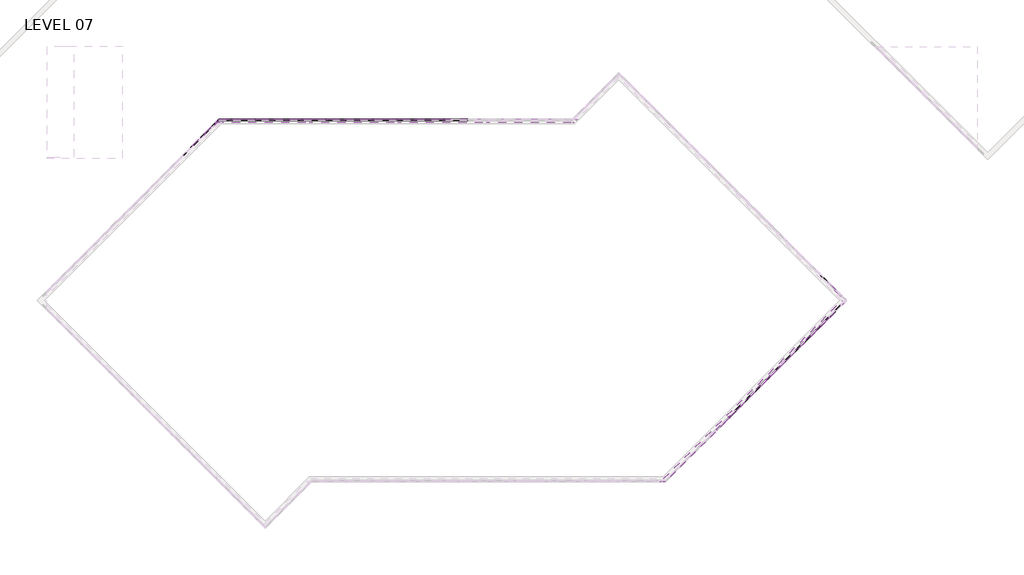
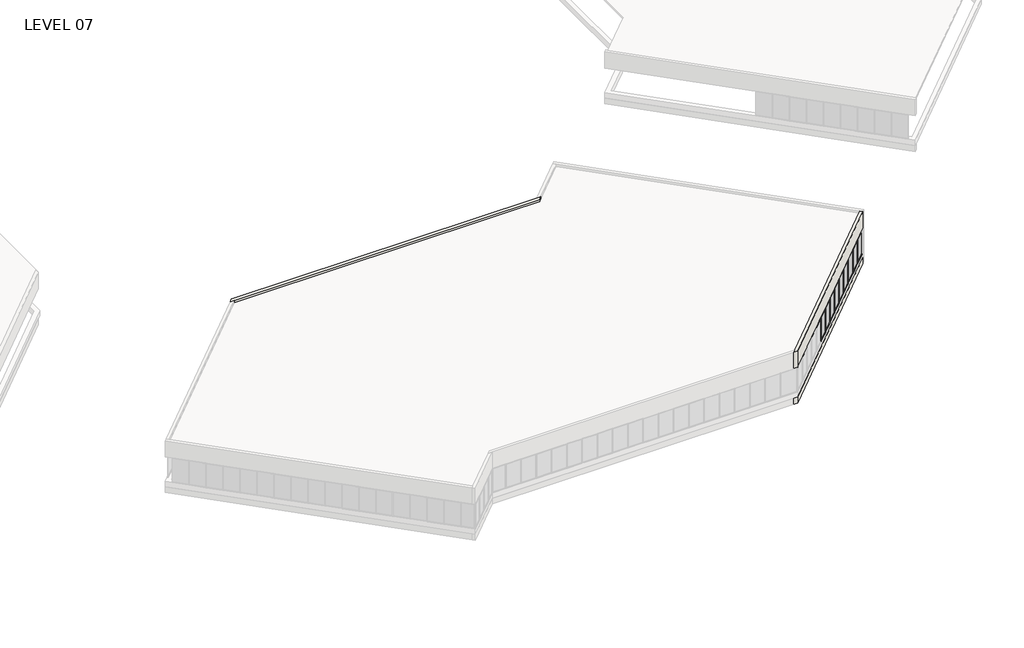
# One storey, part 8 of 18: 79 members, 26 plates, 4 walls.
"""IFC4 building model written with IfcOpenShell, lengths in millimetres."""

from ifc_helpers import new_model, si_unit, origin, place, context, project, spatial, faceted_brep, transform, mapped, element, save
from components import member_5247f267, member_e44af9ab, member_800970d4, member_1bd862b2, member_7ca0f77f, plate_67294edd, plate_bbcbcabf, plate_db5d6751

model = new_model("IFC4")

# Units and contexts
model_context = context("Model", 3, world=origin())
ifc_project = project(units=[si_unit("LENGTHUNIT", "METRE", prefix="MILLI")], contexts=[model_context])

# Site, building, storey
site = spatial("IfcSite", under=ifc_project)
building = spatial("IfcBuilding", under=site)
storey = spatial("IfcBuildingStorey", under=building, Name="LEVEL 07", Elevation=23368.0)

# Members
placement = place(None, origin())
member_shape = member_5247f267(model_context)
element("IfcMember", 1, ObjectType="Rectangular Mullion : 2\" x 4.5\" rectangular", at=placement, inside=storey, context=model_context, shape_type="MappedRepresentation", body=[
    mapped(member_shape, transform((55642.3943146, 1508.7210511, 23368.0), x_axis=(0.0, 0.0, -1.0), y_axis=(0.7071067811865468, -0.7071067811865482, 0.0), z_axis=(-0.7071067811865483, -0.7071067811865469, 0.0))),
])
element("IfcMember", 2, ObjectType="Rectangular Mullion : 2\" x 4.5\" rectangular", at=placement, inside=storey, context=model_context, shape_type="MappedRepresentation", body=[
    mapped(member_shape, transform((56720.0250491, 2586.3517856, 23368.0), x_axis=(0.0, 0.0, -1.0), y_axis=(0.7071067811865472, -0.7071067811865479, 0.0), z_axis=(-0.7071067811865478, -0.7071067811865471, 0.0))),
])
element("IfcMember", 3, ObjectType="Rectangular Mullion : 2\" x 4.5\" rectangular", at=placement, inside=storey, context=model_context, shape_type="MappedRepresentation", body=[
    mapped(member_shape, transform((57797.6557836, 3663.9825201, 23368.0), x_axis=(0.0, 0.0, -1.0), y_axis=(0.7071067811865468, -0.7071067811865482, 0.0), z_axis=(-0.7071067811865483, -0.7071067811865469, 0.0))),
])
element("IfcMember", 4, ObjectType="Rectangular Mullion : 2\" x 4.5\" rectangular", at=placement, inside=storey, context=model_context, shape_type="MappedRepresentation", body=[
    mapped(member_shape, transform((63185.8094563, 9052.1361928, 23368.0), x_axis=(0.0, 0.0, -1.0), y_axis=(0.7071067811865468, -0.7071067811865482, 0.0), z_axis=(-0.7071067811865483, -0.7071067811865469, 0.0))),
])
element("IfcMember", 5, ObjectType="Rectangular Mullion : 2\" x 4.5\" rectangular", at=placement, inside=storey, context=model_context, shape_type="MappedRepresentation", body=[
    mapped(member_shape, transform((54564.7635801, 431.0903165, 23368.0), x_axis=(0.0, 0.0, -1.0), y_axis=(0.7071067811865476, -0.7071067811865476, 0.0), z_axis=(-0.7071067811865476, -0.7071067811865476, 0.0))),
])
element("IfcMember", 6, ObjectType="Rectangular Mullion : 2\" x 4.5\" rectangular", at=placement, inside=storey, context=model_context, shape_type="MappedRepresentation", body=[
    mapped(member_shape, transform((59952.9172527, 5819.2439892, 23368.0), x_axis=(0.0, 0.0, -1.0), y_axis=(0.7071067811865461, -0.7071067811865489, 0.0), z_axis=(-0.7071067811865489, -0.7071067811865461, 0.0))),
])
element("IfcMember", 7, ObjectType="Rectangular Mullion : 2\" x 4.5\" rectangular", at=placement, inside=storey, context=model_context, shape_type="MappedRepresentation", body=[
    mapped(member_shape, transform((58875.2865182, 4741.6132547, 23368.0), x_axis=(0.0, 0.0, -1.0), y_axis=(0.7071067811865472, -0.7071067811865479, 0.0), z_axis=(-0.7071067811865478, -0.7071067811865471, 0.0))),
])
element("IfcMember", 8, ObjectType="Rectangular Mullion : 2\" x 4.5\" rectangular", at=placement, inside=storey, context=model_context, shape_type="MappedRepresentation", body=[
    mapped(member_shape, transform((61030.5479872, 6896.8747237, 23368.0), x_axis=(0.0, 0.0, -1.0), y_axis=(0.7071067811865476, -0.7071067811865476, 0.0), z_axis=(-0.7071067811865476, -0.7071067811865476, 0.0))),
])
element("IfcMember", 9, ObjectType="Rectangular Mullion : 2\" x 4.5\" rectangular", at=placement, inside=storey, context=model_context, shape_type="MappedRepresentation", body=[
    mapped(member_shape, transform((62108.1787218, 7974.5054582, 23368.0), x_axis=(0.0, 0.0, -1.0), y_axis=(0.7071067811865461, -0.7071067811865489, 0.0), z_axis=(-0.7071067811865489, -0.7071067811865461, 0.0))),
])
element("IfcMember", 10, ObjectType="Rectangular Mullion : 2\" x 4.5\" rectangular", at=placement, inside=storey, context=model_context, shape_type="MappedRepresentation", body=[
    mapped(member_shape, transform((63149.7097592, 11972.0792486, 23368.0), x_axis=(0.0, 0.0, -1.0), y_axis=(0.707106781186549, 0.7071067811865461, 0.0), z_axis=(0.707106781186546, -0.7071067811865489, 0.0))),
])
element("IfcMember", 11, ObjectType="Rectangular Mullion : 2\" x 4.5\" rectangular", at=placement, inside=storey, context=model_context, shape_type="MappedRepresentation", body=[
    mapped(member_shape, transform((21469.35, 26080.1328721, 23368.0), x_axis=(0.0, 0.0, -1.0), y_axis=(0.0, -1.0, 0.0), z_axis=(-1.0, 0.0, 0.0))),
])
element("IfcMember", 12, ObjectType="Rectangular Mullion : 2\" x 4.5\" rectangular", at=placement, inside=storey, context=model_context, shape_type="MappedRepresentation", body=[
    mapped(member_shape, transform((22993.35, 26080.1328721, 23368.0), x_axis=(0.0, 0.0, -1.0), y_axis=(0.0, -1.0, 0.0), z_axis=(-1.0, 0.0, 0.0))),
])
element("IfcMember", 13, ObjectType="Rectangular Mullion : 2\" x 4.5\" rectangular", at=placement, inside=storey, context=model_context, shape_type="MappedRepresentation", body=[
    mapped(member_shape, transform((24517.35, 26080.1328721, 23368.0), x_axis=(0.0, 0.0, -1.0), y_axis=(0.0, -1.0, 0.0), z_axis=(-1.0, 0.0, 0.0))),
])
element("IfcMember", 14, ObjectType="Rectangular Mullion : 2\" x 4.5\" rectangular", at=placement, inside=storey, context=model_context, shape_type="MappedRepresentation", body=[
    mapped(member_shape, transform((27565.35, 26080.1328721, 23368.0), x_axis=(0.0, 0.0, -1.0), y_axis=(0.0, -1.0, 0.0), z_axis=(-1.0, 0.0, 0.0))),
])
element("IfcMember", 15, ObjectType="Rectangular Mullion : 2\" x 4.5\" rectangular", at=placement, inside=storey, context=model_context, shape_type="MappedRepresentation", body=[
    mapped(member_shape, transform((29089.35, 26080.1328721, 23368.0), x_axis=(0.0, 0.0, -1.0), y_axis=(0.0, -1.0, 0.0), z_axis=(-1.0, 0.0, 0.0))),
])
element("IfcMember", 16, ObjectType="Rectangular Mullion : 2\" x 4.5\" rectangular", at=placement, inside=storey, context=model_context, shape_type="MappedRepresentation", body=[
    mapped(member_shape, transform((30613.35, 26080.1328721, 23368.0), x_axis=(0.0, 0.0, -1.0), y_axis=(0.0, -1.0, 0.0), z_axis=(-1.0, 0.0, 0.0))),
])
element("IfcMember", 17, ObjectType="Rectangular Mullion : 2\" x 4.5\" rectangular", at=placement, inside=storey, context=model_context, shape_type="MappedRepresentation", body=[
    mapped(member_shape, transform((26041.35, 26080.1328721, 23368.0), x_axis=(0.0, 0.0, -1.0), y_axis=(0.0, -1.0, 0.0), z_axis=(-1.0, 0.0, 0.0))),
])
element("IfcMember", 18, ObjectType="Rectangular Mullion : 2\" x 4.5\" rectangular", at=placement, inside=storey, context=model_context, shape_type="MappedRepresentation", body=[
    mapped(member_shape, transform((19945.35, 26080.1328721, 23368.0), x_axis=(0.0, 0.0, -1.0), y_axis=(0.0, -1.0, 0.0), z_axis=(-1.0, 0.0, 0.0))),
])
element("IfcMember", 19, ObjectType="Rectangular Mullion : 2\" x 4.5\" rectangular", at=placement, inside=storey, context=model_context, shape_type="MappedRepresentation", body=[
    mapped(member_shape, transform((18421.35, 26080.1328721, 23368.0), x_axis=(0.0, 0.0, -1.0), y_axis=(0.0, -1.0, 0.0), z_axis=(-1.0, 0.0, 0.0))),
])
element("IfcMember", 20, ObjectType="Rectangular Mullion : 2\" x 4.5\" rectangular", at=placement, inside=storey, context=model_context, shape_type="MappedRepresentation", body=[
    mapped(member_shape, transform((16897.35, 26080.1328721, 23368.0), x_axis=(0.0, 0.0, -1.0), y_axis=(0.0, -1.0, 0.0), z_axis=(-1.0, 0.0, 0.0))),
])
element("IfcMember", 21, ObjectType="Rectangular Mullion : 2\" x 4.5\" rectangular", at=placement, inside=storey, context=model_context, shape_type="MappedRepresentation", body=[
    mapped(member_shape, transform((15373.35, 26080.1328721, 23368.0), x_axis=(0.0, 0.0, -1.0), y_axis=(0.0, -1.0, 0.0), z_axis=(-1.0, 0.0, 0.0))),
])
element("IfcMember", 22, ObjectType="Rectangular Mullion : 2\" x 4.5\" rectangular", at=placement, inside=storey, context=model_context, shape_type="MappedRepresentation", body=[
    mapped(member_shape, transform((13849.35, 26080.1328721, 23368.0), x_axis=(0.0, 0.0, -1.0), y_axis=(0.0, -1.0, 0.0), z_axis=(-1.0, 0.0, 0.0))),
])
element("IfcMember", 23, ObjectType="Rectangular Mullion : 2\" x 4.5\" rectangular", at=placement, inside=storey, context=model_context, shape_type="MappedRepresentation", body=[
    mapped(member_shape, transform((12325.35, 26080.1328721, 23368.0), x_axis=(0.0, 0.0, -1.0), y_axis=(0.0, -1.0, 0.0), z_axis=(-1.0, 0.0, 0.0))),
])
element("IfcMember", 24, ObjectType="Rectangular Mullion : 2\" x 4.5\" rectangular", at=placement, inside=storey, context=model_context, shape_type="MappedRepresentation", body=[
    mapped(member_shape, transform((8320.1332875, 23790.0222953, 23368.0), x_axis=(0.0, 0.0, -1.0), y_axis=(-0.7071067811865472, 0.7071067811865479, 0.0), z_axis=(0.7071067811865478, 0.7071067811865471, 0.0))),
])
element("IfcMember", 25, ObjectType="Rectangular Mullion : 2\" x 4.5\" rectangular", at=placement, inside=storey, context=model_context, shape_type="MappedRepresentation", body=[
    mapped(member_shape, transform((9397.7640221, 24867.6530298, 23368.0), x_axis=(0.0, 0.0, -1.0), y_axis=(-0.7071067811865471, 0.7071067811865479, 0.0), z_axis=(0.7071067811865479, 0.7071067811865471, 0.0))),
])
element("IfcMember", 26, ObjectType="Rectangular Mullion : 2\" x 4.5\" rectangular", at=placement, inside=storey, context=model_context, shape_type="MappedRepresentation", body=[
    mapped(member_shape, transform((55606.4732901, 1472.8000266, 25958.8), x_axis=(0.0, 0.0, 1.0), y_axis=(0.7071067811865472, -0.7071067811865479, 0.0), z_axis=(0.7071067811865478, 0.7071067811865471, 0.0))),
])
element("IfcMember", 27, ObjectType="Rectangular Mullion : 2\" x 4.5\" rectangular", at=placement, inside=storey, context=model_context, shape_type="MappedRepresentation", body=[
    mapped(member_shape, transform((56684.1040246, 2550.4307611, 25958.8), x_axis=(0.0, 0.0, 1.0), y_axis=(0.7071067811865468, -0.7071067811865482, 0.0), z_axis=(0.7071067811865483, 0.7071067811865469, 0.0))),
])
element("IfcMember", 28, ObjectType="Rectangular Mullion : 2\" x 4.5\" rectangular", at=placement, inside=storey, context=model_context, shape_type="MappedRepresentation", body=[
    mapped(member_shape, transform((57761.7347592, 3628.0614956, 25958.8), x_axis=(0.0, 0.0, 1.0), y_axis=(0.7071067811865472, -0.7071067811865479, 0.0), z_axis=(0.7071067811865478, 0.7071067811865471, 0.0))),
])
element("IfcMember", 29, ObjectType="Rectangular Mullion : 2\" x 4.5\" rectangular", at=placement, inside=storey, context=model_context, shape_type="MappedRepresentation", body=[
    mapped(member_shape, transform((63149.8884318, 9016.2151683, 25958.8), x_axis=(0.0, 0.0, 1.0), y_axis=(0.7071067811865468, -0.7071067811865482, 0.0), z_axis=(0.7071067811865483, 0.7071067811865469, 0.0))),
])
element("IfcMember", 30, ObjectType="Rectangular Mullion : 2\" x 4.5\" rectangular", at=placement, inside=storey, context=model_context, shape_type="MappedRepresentation", body=[
    mapped(member_shape, transform((54528.8425556, 395.1692921, 25958.8), x_axis=(0.0, 0.0, 1.0), y_axis=(0.7071067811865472, -0.7071067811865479, 0.0), z_axis=(0.7071067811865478, 0.7071067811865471, 0.0))),
])
element("IfcMember", 31, ObjectType="Rectangular Mullion : 2\" x 4.5\" rectangular", at=placement, inside=storey, context=model_context, shape_type="MappedRepresentation", body=[
    mapped(member_shape, transform((59916.9962282, 5783.3229647, 25958.8), x_axis=(0.0, 0.0, 1.0), y_axis=(0.7071067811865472, -0.7071067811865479, 0.0), z_axis=(0.7071067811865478, 0.7071067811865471, 0.0))),
])
element("IfcMember", 32, ObjectType="Rectangular Mullion : 2\" x 4.5\" rectangular", at=placement, inside=storey, context=model_context, shape_type="MappedRepresentation", body=[
    mapped(member_shape, transform((58839.3654937, 4705.6922302, 25958.8), x_axis=(0.0, 0.0, 1.0), y_axis=(0.7071067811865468, -0.7071067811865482, 0.0), z_axis=(0.7071067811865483, 0.7071067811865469, 0.0))),
])
element("IfcMember", 33, ObjectType="Rectangular Mullion : 2\" x 4.5\" rectangular", at=placement, inside=storey, context=model_context, shape_type="MappedRepresentation", body=[
    mapped(member_shape, transform((60994.6269627, 6860.9536992, 25958.8), x_axis=(0.0, 0.0, 1.0), y_axis=(0.7071067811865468, -0.7071067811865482, 0.0), z_axis=(0.7071067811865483, 0.7071067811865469, 0.0))),
])
element("IfcMember", 34, ObjectType="Rectangular Mullion : 2\" x 4.5\" rectangular", at=placement, inside=storey, context=model_context, shape_type="MappedRepresentation", body=[
    mapped(member_shape, transform((62072.2576973, 7938.5844338, 25958.8), x_axis=(0.0, 0.0, 1.0), y_axis=(0.7071067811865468, -0.7071067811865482, 0.0), z_axis=(0.7071067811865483, 0.7071067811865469, 0.0))),
])
element("IfcMember", 35, ObjectType="Rectangular Mullion : 2\" x 4.5\" rectangular", at=placement, inside=storey, context=model_context, shape_type="MappedRepresentation", body=[
    mapped(member_shape, transform((63185.6307836, 11936.1582241, 25958.8), x_axis=(0.0, 0.0, 1.0), y_axis=(0.707106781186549, 0.7071067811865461, 0.0), z_axis=(-0.707106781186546, 0.7071067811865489, 0.0))),
])
element("IfcMember", 36, ObjectType="Rectangular Mullion : 2\" x 4.5\" rectangular", at=placement, inside=storey, context=model_context, shape_type="MappedRepresentation", body=[
    mapped(member_shape, transform((21418.55, 26080.1328721, 25958.8), x_axis=(0.0, 0.0, 1.0), y_axis=(0.0, -1.0, 0.0), z_axis=(1.0, 0.0, 0.0))),
])
element("IfcMember", 37, ObjectType="Rectangular Mullion : 2\" x 4.5\" rectangular", at=placement, inside=storey, context=model_context, shape_type="MappedRepresentation", body=[
    mapped(member_shape, transform((22942.55, 26080.1328721, 25958.8), x_axis=(0.0, 0.0, 1.0), y_axis=(0.0, -1.0, 0.0), z_axis=(1.0, 0.0, 0.0))),
])
element("IfcMember", 38, ObjectType="Rectangular Mullion : 2\" x 4.5\" rectangular", at=placement, inside=storey, context=model_context, shape_type="MappedRepresentation", body=[
    mapped(member_shape, transform((24466.55, 26080.1328721, 25958.8), x_axis=(0.0, 0.0, 1.0), y_axis=(0.0, -1.0, 0.0), z_axis=(1.0, 0.0, 0.0))),
])
element("IfcMember", 39, ObjectType="Rectangular Mullion : 2\" x 4.5\" rectangular", at=placement, inside=storey, context=model_context, shape_type="MappedRepresentation", body=[
    mapped(member_shape, transform((27514.55, 26080.1328721, 25958.8), x_axis=(0.0, 0.0, 1.0), y_axis=(0.0, -1.0, 0.0), z_axis=(1.0, 0.0, 0.0))),
])
element("IfcMember", 40, ObjectType="Rectangular Mullion : 2\" x 4.5\" rectangular", at=placement, inside=storey, context=model_context, shape_type="MappedRepresentation", body=[
    mapped(member_shape, transform((29038.55, 26080.1328721, 25958.8), x_axis=(0.0, 0.0, 1.0), y_axis=(0.0, -1.0, 0.0), z_axis=(1.0, 0.0, 0.0))),
])
element("IfcMember", 41, ObjectType="Rectangular Mullion : 2\" x 4.5\" rectangular", at=placement, inside=storey, context=model_context, shape_type="MappedRepresentation", body=[
    mapped(member_shape, transform((30562.55, 26080.1328721, 25958.8), x_axis=(0.0, 0.0, 1.0), y_axis=(0.0, -1.0, 0.0), z_axis=(1.0, 0.0, 0.0))),
])
element("IfcMember", 42, ObjectType="Rectangular Mullion : 2\" x 4.5\" rectangular", at=placement, inside=storey, context=model_context, shape_type="MappedRepresentation", body=[
    mapped(member_shape, transform((25990.55, 26080.1328721, 25958.8), x_axis=(0.0, 0.0, 1.0), y_axis=(0.0, -1.0, 0.0), z_axis=(1.0, 0.0, 0.0))),
])
element("IfcMember", 43, ObjectType="Rectangular Mullion : 2\" x 4.5\" rectangular", at=placement, inside=storey, context=model_context, shape_type="MappedRepresentation", body=[
    mapped(member_shape, transform((19894.55, 26080.1328721, 25958.8), x_axis=(0.0, 0.0, 1.0), y_axis=(0.0, -1.0, 0.0), z_axis=(1.0, 0.0, 0.0))),
])
element("IfcMember", 44, ObjectType="Rectangular Mullion : 2\" x 4.5\" rectangular", at=placement, inside=storey, context=model_context, shape_type="MappedRepresentation", body=[
    mapped(member_shape, transform((18370.55, 26080.1328721, 25958.8), x_axis=(0.0, 0.0, 1.0), y_axis=(0.0, -1.0, 0.0), z_axis=(1.0, 0.0, 0.0))),
])
element("IfcMember", 45, ObjectType="Rectangular Mullion : 2\" x 4.5\" rectangular", at=placement, inside=storey, context=model_context, shape_type="MappedRepresentation", body=[
    mapped(member_shape, transform((16846.55, 26080.1328721, 25958.8), x_axis=(0.0, 0.0, 1.0), y_axis=(0.0, -1.0, 0.0), z_axis=(1.0, 0.0, 0.0))),
])
element("IfcMember", 46, ObjectType="Rectangular Mullion : 2\" x 4.5\" rectangular", at=placement, inside=storey, context=model_context, shape_type="MappedRepresentation", body=[
    mapped(member_shape, transform((15322.55, 26080.1328721, 25958.8), x_axis=(0.0, 0.0, 1.0), y_axis=(0.0, -1.0, 0.0), z_axis=(1.0, 0.0, 0.0))),
])
element("IfcMember", 47, ObjectType="Rectangular Mullion : 2\" x 4.5\" rectangular", at=placement, inside=storey, context=model_context, shape_type="MappedRepresentation", body=[
    mapped(member_shape, transform((13798.55, 26080.1328721, 25958.8), x_axis=(0.0, 0.0, 1.0), y_axis=(0.0, -1.0, 0.0), z_axis=(1.0, 0.0, 0.0))),
])
element("IfcMember", 48, ObjectType="Rectangular Mullion : 2\" x 4.5\" rectangular", at=placement, inside=storey, context=model_context, shape_type="MappedRepresentation", body=[
    mapped(member_shape, transform((8356.054312, 23825.9433198, 25958.8), x_axis=(0.0, 0.0, 1.0), y_axis=(-0.7071067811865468, 0.7071067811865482, 0.0), z_axis=(-0.7071067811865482, -0.7071067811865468, 0.0))),
])
member_2_shape = member_e44af9ab(model_context)
element("IfcMember", 49, ObjectType="Rectangular Mullion : 2\" x 4.5\" rectangular", at=placement, inside=storey, context=model_context, shape_type="MappedRepresentation", body=[
    mapped(member_2_shape, transform((55624.4338023, 1490.7605388, 23368.0), x_axis=(0.7071067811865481, 0.7071067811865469, 0.0), y_axis=(0.7071067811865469, -0.7071067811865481, 0.0), z_axis=(0.0, 0.0, -1.0))),
])
element("IfcMember", 50, ObjectType="Rectangular Mullion : 2\" x 4.5\" rectangular", at=placement, inside=storey, context=model_context, shape_type="MappedRepresentation", body=[
    mapped(member_2_shape, transform((56702.0645369, 2568.3912734, 23368.0), x_axis=(0.7071067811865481, 0.7071067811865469, 0.0), y_axis=(0.7071067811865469, -0.7071067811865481, 0.0), z_axis=(0.0, 0.0, -1.0))),
])
element("IfcMember", 51, ObjectType="Rectangular Mullion : 2\" x 4.5\" rectangular", at=placement, inside=storey, context=model_context, shape_type="MappedRepresentation", body=[
    mapped(member_2_shape, transform((57779.6952714, 3646.0220079, 23368.0), x_axis=(0.7071067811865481, 0.7071067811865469, 0.0), y_axis=(0.7071067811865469, -0.7071067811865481, 0.0), z_axis=(0.0, 0.0, -1.0))),
])
element("IfcMember", 52, ObjectType="Rectangular Mullion : 2\" x 4.5\" rectangular", at=placement, inside=storey, context=model_context, shape_type="MappedRepresentation", body=[
    mapped(member_2_shape, transform((63167.848944, 9034.1756805, 23368.0), x_axis=(0.7071067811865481, 0.7071067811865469, 0.0), y_axis=(0.7071067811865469, -0.7071067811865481, 0.0), z_axis=(0.0, 0.0, -1.0))),
])
element("IfcMember", 53, ObjectType="Rectangular Mullion : 2\" x 4.5\" rectangular", at=placement, inside=storey, context=model_context, shape_type="MappedRepresentation", body=[
    mapped(member_2_shape, transform((54546.8030678, 413.1298043, 23368.0), x_axis=(0.7071067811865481, 0.7071067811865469, 0.0), y_axis=(0.7071067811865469, -0.7071067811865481, 0.0), z_axis=(0.0, 0.0, -1.0))),
])
element("IfcMember", 54, ObjectType="Rectangular Mullion : 2\" x 4.5\" rectangular", at=placement, inside=storey, context=model_context, shape_type="MappedRepresentation", body=[
    mapped(member_2_shape, transform((59934.9567405, 5801.2834769, 23368.0), x_axis=(0.7071067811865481, 0.7071067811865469, 0.0), y_axis=(0.7071067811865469, -0.7071067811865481, 0.0), z_axis=(0.0, 0.0, -1.0))),
])
element("IfcMember", 55, ObjectType="Rectangular Mullion : 2\" x 4.5\" rectangular", at=placement, inside=storey, context=model_context, shape_type="MappedRepresentation", body=[
    mapped(member_2_shape, transform((58857.3260059, 4723.6527424, 23368.0), x_axis=(0.7071067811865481, 0.7071067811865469, 0.0), y_axis=(0.7071067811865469, -0.7071067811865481, 0.0), z_axis=(0.0, 0.0, -1.0))),
])
element("IfcMember", 56, ObjectType="Rectangular Mullion : 2\" x 4.5\" rectangular", at=placement, inside=storey, context=model_context, shape_type="MappedRepresentation", body=[
    mapped(member_2_shape, transform((61012.587475, 6878.9142115, 23368.0), x_axis=(0.7071067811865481, 0.7071067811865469, 0.0), y_axis=(0.7071067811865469, -0.7071067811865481, 0.0), z_axis=(0.0, 0.0, -1.0))),
])
element("IfcMember", 57, ObjectType="Rectangular Mullion : 2\" x 4.5\" rectangular", at=placement, inside=storey, context=model_context, shape_type="MappedRepresentation", body=[
    mapped(member_2_shape, transform((62090.2182095, 7956.544946, 23368.0), x_axis=(0.7071067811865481, 0.7071067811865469, 0.0), y_axis=(0.7071067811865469, -0.7071067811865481, 0.0), z_axis=(0.0, 0.0, -1.0))),
])
element("IfcMember", 58, ObjectType="Rectangular Mullion : 2\" x 4.5\" rectangular", at=placement, inside=storey, context=model_context, shape_type="MappedRepresentation", body=[
    mapped(member_2_shape, transform((21443.95, 26080.1328721, 23368.0), x_axis=(1.0, 0.0, 0.0), y_axis=(0.0, -1.0, 0.0), z_axis=(0.0, 0.0, -1.0))),
])
element("IfcMember", 59, ObjectType="Rectangular Mullion : 2\" x 4.5\" rectangular", at=placement, inside=storey, context=model_context, shape_type="MappedRepresentation", body=[
    mapped(member_2_shape, transform((22967.95, 26080.1328721, 23368.0), x_axis=(1.0, 0.0, 0.0), y_axis=(0.0, -1.0, 0.0), z_axis=(0.0, 0.0, -1.0))),
])
element("IfcMember", 60, ObjectType="Rectangular Mullion : 2\" x 4.5\" rectangular", at=placement, inside=storey, context=model_context, shape_type="MappedRepresentation", body=[
    mapped(member_2_shape, transform((24491.95, 26080.1328721, 23368.0), x_axis=(1.0, 0.0, 0.0), y_axis=(0.0, -1.0, 0.0), z_axis=(0.0, 0.0, -1.0))),
])
element("IfcMember", 61, ObjectType="Rectangular Mullion : 2\" x 4.5\" rectangular", at=placement, inside=storey, context=model_context, shape_type="MappedRepresentation", body=[
    mapped(member_2_shape, transform((27539.95, 26080.1328721, 23368.0), x_axis=(1.0, 0.0, 0.0), y_axis=(0.0, -1.0, 0.0), z_axis=(0.0, 0.0, -1.0))),
])
element("IfcMember", 62, ObjectType="Rectangular Mullion : 2\" x 4.5\" rectangular", at=placement, inside=storey, context=model_context, shape_type="MappedRepresentation", body=[
    mapped(member_2_shape, transform((29063.95, 26080.1328721, 23368.0), x_axis=(1.0, 0.0, 0.0), y_axis=(0.0, -1.0, 0.0), z_axis=(0.0, 0.0, -1.0))),
])
element("IfcMember", 63, ObjectType="Rectangular Mullion : 2\" x 4.5\" rectangular", at=placement, inside=storey, context=model_context, shape_type="MappedRepresentation", body=[
    mapped(member_2_shape, transform((30587.95, 26080.1328721, 23368.0), x_axis=(1.0, 0.0, 0.0), y_axis=(0.0, -1.0, 0.0), z_axis=(0.0, 0.0, -1.0))),
])
element("IfcMember", 64, ObjectType="Rectangular Mullion : 2\" x 4.5\" rectangular", at=placement, inside=storey, context=model_context, shape_type="MappedRepresentation", body=[
    mapped(member_2_shape, transform((26015.95, 26080.1328721, 23368.0), x_axis=(1.0, 0.0, 0.0), y_axis=(0.0, -1.0, 0.0), z_axis=(0.0, 0.0, -1.0))),
])
element("IfcMember", 65, ObjectType="Rectangular Mullion : 2\" x 4.5\" rectangular", at=placement, inside=storey, context=model_context, shape_type="MappedRepresentation", body=[
    mapped(member_2_shape, transform((19919.95, 26080.1328721, 23368.0), x_axis=(1.0, 0.0, 0.0), y_axis=(0.0, -1.0, 0.0), z_axis=(0.0, 0.0, -1.0))),
])
element("IfcMember", 66, ObjectType="Rectangular Mullion : 2\" x 4.5\" rectangular", at=placement, inside=storey, context=model_context, shape_type="MappedRepresentation", body=[
    mapped(member_2_shape, transform((18395.95, 26080.1328721, 23368.0), x_axis=(1.0, 0.0, 0.0), y_axis=(0.0, -1.0, 0.0), z_axis=(0.0, 0.0, -1.0))),
])
element("IfcMember", 67, ObjectType="Rectangular Mullion : 2\" x 4.5\" rectangular", at=placement, inside=storey, context=model_context, shape_type="MappedRepresentation", body=[
    mapped(member_2_shape, transform((16871.95, 26080.1328721, 23368.0), x_axis=(1.0, 0.0, 0.0), y_axis=(0.0, -1.0, 0.0), z_axis=(0.0, 0.0, -1.0))),
])
element("IfcMember", 68, ObjectType="Rectangular Mullion : 2\" x 4.5\" rectangular", at=placement, inside=storey, context=model_context, shape_type="MappedRepresentation", body=[
    mapped(member_2_shape, transform((15347.95, 26080.1328721, 23368.0), x_axis=(1.0, 0.0, 0.0), y_axis=(0.0, -1.0, 0.0), z_axis=(0.0, 0.0, -1.0))),
])
element("IfcMember", 69, ObjectType="Rectangular Mullion : 2\" x 4.5\" rectangular", at=placement, inside=storey, context=model_context, shape_type="MappedRepresentation", body=[
    mapped(member_2_shape, transform((13823.95, 26080.1328721, 23368.0), x_axis=(1.0, 0.0, 0.0), y_axis=(0.0, -1.0, 0.0), z_axis=(0.0, 0.0, -1.0))),
])
element("IfcMember", 70, ObjectType="Rectangular Mullion : 2\" x 4.5\" rectangular", at=placement, inside=storey, context=model_context, shape_type="MappedRepresentation", body=[
    mapped(member_2_shape, transform((12299.95, 26080.1328721, 23368.0), x_axis=(1.0, 0.0, 0.0), y_axis=(0.0, -1.0, 0.0), z_axis=(0.0, 0.0, -1.0))),
])
element("IfcMember", 71, ObjectType="Rectangular Mullion : 2\" x 4.5\" rectangular", at=placement, inside=storey, context=model_context, shape_type="MappedRepresentation", body=[
    mapped(member_2_shape, transform((8338.0937998, 23807.9828075, 23368.0), x_axis=(-0.7071067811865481, -0.7071067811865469, 0.0), y_axis=(-0.7071067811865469, 0.7071067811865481, 0.0), z_axis=(0.0, 0.0, -1.0))),
])
element("IfcMember", 72, ObjectType="Rectangular Mullion : 2\" x 4.5\" rectangular", at=placement, inside=storey, context=model_context, shape_type="MappedRepresentation", body=[
    mapped(member_2_shape, transform((7260.4630653, 22730.352073, 23368.0), x_axis=(-0.7071067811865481, -0.7071067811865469, 0.0), y_axis=(-0.7071067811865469, 0.7071067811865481, 0.0), z_axis=(0.0, 0.0, -1.0))),
])
element("IfcMember", 73, ObjectType="Rectangular Mullion : 2\" x 4.5\" rectangular", at=placement, inside=storey, context=model_context, shape_type="MappedRepresentation", body=[
    mapped(member_2_shape, transform((9415.7245343, 24885.6135421, 23368.0), x_axis=(-0.7071067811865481, -0.7071067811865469, 0.0), y_axis=(-0.7071067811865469, 0.7071067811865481, 0.0), z_axis=(0.0, 0.0, -1.0))),
])
member_3_shape = member_800970d4(model_context)
element("IfcMember", 74, ObjectType="Rectangular Mullion : 2\" x 4.5\" rectangular", at=placement, inside=storey, context=model_context, shape_type="MappedRepresentation", body=[
    mapped(member_3_shape, transform((10610.2438644, 26080.1328721, 25958.8), x_axis=(-1.0, 0.0, 0.0), y_axis=(0.0, -1.0, 0.0), z_axis=(0.0, 0.0, 1.0))),
])
element("IfcMember", 75, ObjectType="Rectangular Mullion : 2\" x 4.5\" rectangular", at=placement, inside=storey, context=model_context, shape_type="MappedRepresentation", body=[
    mapped(member_3_shape, transform((10610.2438644, 26080.1328721, 25958.8), x_axis=(0.7071067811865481, 0.7071067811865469, 0.0), y_axis=(-0.7071067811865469, 0.7071067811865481, 0.0), z_axis=(0.0, 0.0, 1.0))),
])
member_4_shape = member_1bd862b2(model_context)
element("IfcMember", 76, ObjectType="Rectangular Mullion : 2\" x 4.5\" rectangular", at=placement, inside=storey, context=model_context, shape_type="MappedRepresentation", body=[
    mapped(member_4_shape, transform((12274.55, 26080.1328721, 25958.8), x_axis=(0.0, 0.0, 1.0), y_axis=(0.0, -1.0, 0.0), z_axis=(1.0, 0.0, 0.0))),
])
element("IfcMember", 77, ObjectType="Rectangular Mullion : 2\" x 4.5\" rectangular", at=placement, inside=storey, context=model_context, shape_type="MappedRepresentation", body=[
    mapped(member_4_shape, transform((10661.0438644, 26080.1328721, 23368.0), x_axis=(0.0, 0.0, -1.0), y_axis=(0.0, -1.0, 0.0), z_axis=(-1.0, 0.0, 0.0))),
])
member_5_shape = member_7ca0f77f(model_context)
element("IfcMember", 78, ObjectType="Rectangular Mullion : 2\" x 4.5\" rectangular", at=placement, inside=storey, context=model_context, shape_type="MappedRepresentation", body=[
    mapped(member_5_shape, transform((9433.6850466, 24903.5740543, 25958.8), x_axis=(0.0, 0.0, 1.0), y_axis=(-0.7071067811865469, 0.7071067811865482, 0.0), z_axis=(-0.7071067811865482, -0.7071067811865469, 0.0))),
])
element("IfcMember", 79, ObjectType="Rectangular Mullion : 2\" x 4.5\" rectangular", at=placement, inside=storey, context=model_context, shape_type="MappedRepresentation", body=[
    mapped(member_5_shape, transform((10574.3228399, 26044.2118476, 23368.0), x_axis=(0.0, 0.0, -1.0), y_axis=(-0.7071067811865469, 0.7071067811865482, 0.0), z_axis=(0.7071067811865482, 0.7071067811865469, 0.0))),
])

# Plates
plate_shape = plate_67294edd(model_context)
element("IfcPlate", 80, ObjectType="System Panel : 1/4\" Glass", at=placement, inside=storey, context=model_context, shape_type="MappedRepresentation", body=[
    mapped(plate_shape, transform((56163.2491696, 2029.5759061, 23418.8), x_axis=(0.7071067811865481, 0.7071067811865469, 0.0), y_axis=(-0.7071067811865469, 0.7071067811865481, 0.0), z_axis=(0.0, 0.0, 1.0))),
])
element("IfcPlate", 81, ObjectType="System Panel : 1/4\" Glass", at=placement, inside=storey, context=model_context, shape_type="MappedRepresentation", body=[
    mapped(plate_shape, transform((57240.8799041, 3107.2066406, 23418.8), x_axis=(0.7071067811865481, 0.7071067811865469, 0.0), y_axis=(-0.7071067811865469, 0.7071067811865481, 0.0), z_axis=(0.0, 0.0, 1.0))),
])
element("IfcPlate", 82, ObjectType="System Panel : 1/4\" Glass", at=placement, inside=storey, context=model_context, shape_type="MappedRepresentation", body=[
    mapped(plate_shape, transform((58318.5106387, 4184.8373752, 23418.8), x_axis=(0.7071067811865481, 0.7071067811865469, 0.0), y_axis=(-0.7071067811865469, 0.7071067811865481, 0.0), z_axis=(0.0, 0.0, 1.0))),
])
element("IfcPlate", 83, ObjectType="System Panel : 1/4\" Glass", at=placement, inside=storey, context=model_context, shape_type="MappedRepresentation", body=[
    mapped(plate_shape, transform((63706.6643113, 9572.9910478, 23418.8), x_axis=(0.7071067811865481, 0.7071067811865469, 0.0), y_axis=(-0.7071067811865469, 0.7071067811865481, 0.0), z_axis=(0.0, 0.0, 1.0))),
])
element("IfcPlate", 84, ObjectType="System Panel : 1/4\" Glass", at=placement, inside=storey, context=model_context, shape_type="MappedRepresentation", body=[
    mapped(plate_shape, transform((55085.6184351, 951.9451716, 23418.8), x_axis=(0.7071067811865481, 0.7071067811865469, 0.0), y_axis=(-0.7071067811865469, 0.7071067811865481, 0.0), z_axis=(0.0, 0.0, 1.0))),
])
element("IfcPlate", 85, ObjectType="System Panel : 1/4\" Glass", at=placement, inside=storey, context=model_context, shape_type="MappedRepresentation", body=[
    mapped(plate_shape, transform((60473.7721077, 6340.0988442, 23418.8), x_axis=(0.7071067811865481, 0.7071067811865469, 0.0), y_axis=(-0.7071067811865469, 0.7071067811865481, 0.0), z_axis=(0.0, 0.0, 1.0))),
])
element("IfcPlate", 86, ObjectType="System Panel : 1/4\" Glass", at=placement, inside=storey, context=model_context, shape_type="MappedRepresentation", body=[
    mapped(plate_shape, transform((59396.1413732, 5262.4681097, 23418.8), x_axis=(0.7071067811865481, 0.7071067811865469, 0.0), y_axis=(-0.7071067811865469, 0.7071067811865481, 0.0), z_axis=(0.0, 0.0, 1.0))),
])
element("IfcPlate", 87, ObjectType="System Panel : 1/4\" Glass", at=placement, inside=storey, context=model_context, shape_type="MappedRepresentation", body=[
    mapped(plate_shape, transform((61551.4028422, 7417.7295787, 23418.8), x_axis=(0.7071067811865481, 0.7071067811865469, 0.0), y_axis=(-0.7071067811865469, 0.7071067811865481, 0.0), z_axis=(0.0, 0.0, 1.0))),
])
element("IfcPlate", 88, ObjectType="System Panel : 1/4\" Glass", at=placement, inside=storey, context=model_context, shape_type="MappedRepresentation", body=[
    mapped(plate_shape, transform((62629.0335768, 8495.3603133, 23418.8), x_axis=(0.7071067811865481, 0.7071067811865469, 0.0), y_axis=(-0.7071067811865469, 0.7071067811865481, 0.0), z_axis=(0.0, 0.0, 1.0))),
])
element("IfcPlate", 89, ObjectType="System Panel : 1/4\" Glass", at=placement, inside=storey, context=model_context, shape_type="MappedRepresentation", body=[
    mapped(plate_shape, transform((22205.95, 26080.1328721, 23418.8), x_axis=(1.0, 0.0, 0.0), y_axis=(0.0, 1.0, 0.0), z_axis=(0.0, 0.0, 1.0))),
])
element("IfcPlate", 90, ObjectType="System Panel : 1/4\" Glass", at=placement, inside=storey, context=model_context, shape_type="MappedRepresentation", body=[
    mapped(plate_shape, transform((23729.95, 26080.1328721, 23418.8), x_axis=(1.0, 0.0, 0.0), y_axis=(0.0, 1.0, 0.0), z_axis=(0.0, 0.0, 1.0))),
])
element("IfcPlate", 91, ObjectType="System Panel : 1/4\" Glass", at=placement, inside=storey, context=model_context, shape_type="MappedRepresentation", body=[
    mapped(plate_shape, transform((25253.95, 26080.1328721, 23418.8), x_axis=(1.0, 0.0, 0.0), y_axis=(0.0, 1.0, 0.0), z_axis=(0.0, 0.0, 1.0))),
])
element("IfcPlate", 92, ObjectType="System Panel : 1/4\" Glass", at=placement, inside=storey, context=model_context, shape_type="MappedRepresentation", body=[
    mapped(plate_shape, transform((28301.95, 26080.1328721, 23418.8), x_axis=(1.0, 0.0, 0.0), y_axis=(0.0, 1.0, 0.0), z_axis=(0.0, 0.0, 1.0))),
])
element("IfcPlate", 93, ObjectType="System Panel : 1/4\" Glass", at=placement, inside=storey, context=model_context, shape_type="MappedRepresentation", body=[
    mapped(plate_shape, transform((29825.95, 26080.1328721, 23418.8), x_axis=(1.0, 0.0, 0.0), y_axis=(0.0, 1.0, 0.0), z_axis=(0.0, 0.0, 1.0))),
])
element("IfcPlate", 94, ObjectType="System Panel : 1/4\" Glass", at=placement, inside=storey, context=model_context, shape_type="MappedRepresentation", body=[
    mapped(plate_shape, transform((31349.95, 26080.1328721, 23418.8), x_axis=(1.0, 0.0, 0.0), y_axis=(0.0, 1.0, 0.0), z_axis=(0.0, 0.0, 1.0))),
])
element("IfcPlate", 95, ObjectType="System Panel : 1/4\" Glass", at=placement, inside=storey, context=model_context, shape_type="MappedRepresentation", body=[
    mapped(plate_shape, transform((26777.95, 26080.1328721, 23418.8), x_axis=(1.0, 0.0, 0.0), y_axis=(0.0, 1.0, 0.0), z_axis=(0.0, 0.0, 1.0))),
])
element("IfcPlate", 96, ObjectType="System Panel : 1/4\" Glass", at=placement, inside=storey, context=model_context, shape_type="MappedRepresentation", body=[
    mapped(plate_shape, transform((20681.95, 26080.1328721, 23418.8), x_axis=(1.0, 0.0, 0.0), y_axis=(0.0, 1.0, 0.0), z_axis=(0.0, 0.0, 1.0))),
])
element("IfcPlate", 97, ObjectType="System Panel : 1/4\" Glass", at=placement, inside=storey, context=model_context, shape_type="MappedRepresentation", body=[
    mapped(plate_shape, transform((19157.95, 26080.1328721, 23418.8), x_axis=(1.0, 0.0, 0.0), y_axis=(0.0, 1.0, 0.0), z_axis=(0.0, 0.0, 1.0))),
])
element("IfcPlate", 98, ObjectType="System Panel : 1/4\" Glass", at=placement, inside=storey, context=model_context, shape_type="MappedRepresentation", body=[
    mapped(plate_shape, transform((17633.95, 26080.1328721, 23418.8), x_axis=(1.0, 0.0, 0.0), y_axis=(0.0, 1.0, 0.0), z_axis=(0.0, 0.0, 1.0))),
])
element("IfcPlate", 99, ObjectType="System Panel : 1/4\" Glass", at=placement, inside=storey, context=model_context, shape_type="MappedRepresentation", body=[
    mapped(plate_shape, transform((16109.95, 26080.1328721, 23418.8), x_axis=(1.0, 0.0, 0.0), y_axis=(0.0, 1.0, 0.0), z_axis=(0.0, 0.0, 1.0))),
])
element("IfcPlate", 100, ObjectType="System Panel : 1/4\" Glass", at=placement, inside=storey, context=model_context, shape_type="MappedRepresentation", body=[
    mapped(plate_shape, transform((14585.95, 26080.1328721, 23418.8), x_axis=(1.0, 0.0, 0.0), y_axis=(0.0, 1.0, 0.0), z_axis=(0.0, 0.0, 1.0))),
])
element("IfcPlate", 101, ObjectType="System Panel : 1/4\" Glass", at=placement, inside=storey, context=model_context, shape_type="MappedRepresentation", body=[
    mapped(plate_shape, transform((13061.95, 26080.1328721, 23418.8), x_axis=(1.0, 0.0, 0.0), y_axis=(0.0, 1.0, 0.0), z_axis=(0.0, 0.0, 1.0))),
])
element("IfcPlate", 102, ObjectType="System Panel : 1/4\" Glass", at=placement, inside=storey, context=model_context, shape_type="MappedRepresentation", body=[
    mapped(plate_shape, transform((7799.2784325, 23269.1674403, 23418.8), x_axis=(-0.7071067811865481, -0.7071067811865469, 0.0), y_axis=(0.7071067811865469, -0.7071067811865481, 0.0), z_axis=(0.0, 0.0, 1.0))),
])
element("IfcPlate", 103, ObjectType="System Panel : 1/4\" Glass", at=placement, inside=storey, context=model_context, shape_type="MappedRepresentation", body=[
    mapped(plate_shape, transform((8876.909167, 24346.7981748, 23418.8), x_axis=(-0.7071067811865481, -0.7071067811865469, 0.0), y_axis=(0.7071067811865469, -0.7071067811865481, 0.0), z_axis=(0.0, 0.0, 1.0))),
])
plate_2_shape = plate_bbcbcabf(model_context)
element("IfcPlate", 104, ObjectType="System Panel : 1/4\" Glass", at=placement, inside=storey, context=model_context, shape_type="MappedRepresentation", body=[
    mapped(plate_2_shape, transform((11467.7969322, 26080.1328721, 23418.8), x_axis=(1.0, 0.0, 0.0), y_axis=(0.0, 1.0, 0.0), z_axis=(0.0, 0.0, 1.0))),
])
plate_3_shape = plate_db5d6751(model_context)
element("IfcPlate", 105, ObjectType="System Panel : 1/4\" Glass", at=placement, inside=storey, context=model_context, shape_type="MappedRepresentation", body=[
    mapped(plate_3_shape, transform((10004.0039432, 25473.892951, 23418.8), x_axis=(-0.7071067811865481, -0.7071067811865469, 0.0), y_axis=(0.7071067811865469, -0.7071067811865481, 0.0), z_axis=(0.0, 0.0, 1.0))),
])

# Walls
element("IfcWall", 106, ObjectType="01-CONCRETE-12", at=placement, inside=storey, context=model_context, shape_type="Brep", body=[
    faceted_brep([(10281.7715593, 25832.4828721, 22186.9), (10712.8238531, 25832.4828721, 22186.9), (10995.0863917, 25832.4828721, 22186.9), (18091.15, 25832.4828721, 22186.9), (18700.75, 25832.4828721, 22186.9), (25711.15, 25832.4828721, 22186.9), (26320.75, 25832.4828721, 22186.9), (33331.15, 25832.4828721, 22186.9), (33940.75, 25832.4828721, 22186.9), (40951.15, 25832.4828721, 22186.9), (41192.8238531, 25832.4828721, 22186.9), (41192.8238531, 25832.4828721, 22809.2), (40951.15, 25832.4828721, 22809.2), (33940.75, 25832.4828721, 22809.2), (33331.15, 25832.4828721, 22809.2), (26320.75, 25832.4828721, 22809.2), (25711.15, 25832.4828721, 22809.2), (18700.75, 25832.4828721, 22809.2), (18091.15, 25832.4828721, 22809.2), (10995.0863917, 25832.4828721, 22809.2), (10712.8238531, 25832.4828721, 22809.2), (10281.7715593, 25832.4828721, 22809.2), (10586.5715593, 26137.2828721, 22186.9), (10586.5715593, 26137.2828721, 22809.2), (41066.5715593, 26137.2828721, 22809.2), (41497.6238531, 26137.2828721, 22809.2), (41497.6238531, 26137.2828721, 22186.9), (41066.5715593, 26137.2828721, 22186.9), (41243.6238531, 25883.2828721, 22186.9), (41243.6238531, 25883.2828721, 22809.2)], [[[0, 1, 2, 3, 4, 5, 6, 7, 8, 9, 10, 11, 12, 13, 14, 15, 16, 17, 18, 19, 20, 21]], [[22, 23, 24, 25, 26, 27]], [[10, 9, 8, 7, 6, 5, 4, 3, 2, 1, 0, 22, 27, 26, 28]], [[21, 20, 19, 18, 17, 16, 15, 14, 13, 12, 11, 29, 25, 24, 23]], [[11, 10, 28, 26, 25, 29]], [[0, 21, 23, 22]]]),
])
element("IfcWall", 107, ObjectType="01-CONCRETE-12", at=placement, inside=storey, context=model_context, shape_type="Brep", body=[
    faceted_brep([(64277.5011469, 10494.0578721, 22186.9), (48939.0761469, -4844.3671279, 22186.9), (48634.2761469, -5149.1671279, 22186.9), (48634.2761469, -5149.1671279, 22809.2), (48939.0761469, -4844.3671279, 22809.2), (64277.5011469, 10494.0578721, 22809.2), (64493.0272938, 10278.5317252, 22186.9), (64493.0272938, 10278.5317252, 22809.2), (49065.3284407, -5149.1671279, 22809.2), (49065.3284407, -5149.1671279, 22186.9)], [[[0, 1, 2, 3, 4, 5]], [[6, 7, 8, 9]], [[2, 1, 0, 6, 9]], [[5, 4, 3, 8, 7]], [[3, 2, 9, 8]], [[0, 5, 7, 6]]]),
])
element("IfcWall", 108, ObjectType="01-CONCRETE-12", at=placement, inside=storey, context=model_context, shape_type="Brep", body=[
    faceted_brep([(10281.7715593, 25832.4828721, 25958.8), (10712.8238531, 25832.4828721, 25958.8), (10995.0863917, 25832.4828721, 25958.8), (18091.15, 25832.4828721, 25958.8), (18700.75, 25832.4828721, 25958.8), (25711.15, 25832.4828721, 25958.8), (26320.75, 25832.4828721, 25958.8), (33331.15, 25832.4828721, 25958.8), (33940.75, 25832.4828721, 25958.8), (40951.15, 25832.4828721, 25958.8), (41192.8238531, 25832.4828721, 25958.8), (41192.8238531, 25832.4828721, 26111.2), (41192.8238531, 25832.4828721, 27673.3), (10712.8238531, 25832.4828721, 27673.3), (10281.7715593, 25832.4828721, 27673.3), (10586.5715593, 26137.2828721, 25958.8), (10586.5715593, 26137.2828721, 27673.3), (41066.5715593, 26137.2828721, 27673.3), (41497.6238531, 26137.2828721, 27673.3), (41497.6238531, 26137.2828721, 25958.8), (41066.5715593, 26137.2828721, 25958.8), (41243.6238531, 25883.2828721, 25958.8)], [[[0, 1, 2, 3, 4, 5, 6, 7, 8, 9, 10, 11, 12, 13, 14]], [[15, 16, 17, 18, 19, 20]], [[10, 9, 8, 7, 6, 5, 4, 3, 2, 1, 0, 15, 20, 19, 21]], [[14, 13, 12, 18, 17, 16]], [[12, 11, 10, 21, 19, 18]], [[0, 14, 16, 15]]]),
])
element("IfcWall", 109, ObjectType="01-CONCRETE-12", at=placement, inside=storey, context=model_context, shape_type="Brep", body=[
    faceted_brep([(64277.5011469, 10494.0578721, 25958.8), (48939.0761469, -4844.3671279, 25958.8), (48634.2761469, -5149.1671279, 25958.8), (48634.2761469, -5149.1671279, 27673.3), (48939.0761469, -4844.3671279, 27673.3), (64277.5011469, 10494.0578721, 27673.3), (64493.0272938, 10278.5317252, 25958.8), (64493.0272938, 10278.5317252, 27673.3), (49065.3284407, -5149.1671279, 27673.3), (49065.3284407, -5149.1671279, 25958.8)], [[[0, 1, 2, 3, 4, 5]], [[6, 7, 8, 9]], [[2, 1, 0, 6, 9]], [[5, 4, 3, 8, 7]], [[0, 5, 7, 6]], [[3, 2, 9, 8]]]),
])

save(model, "model.ifc")
